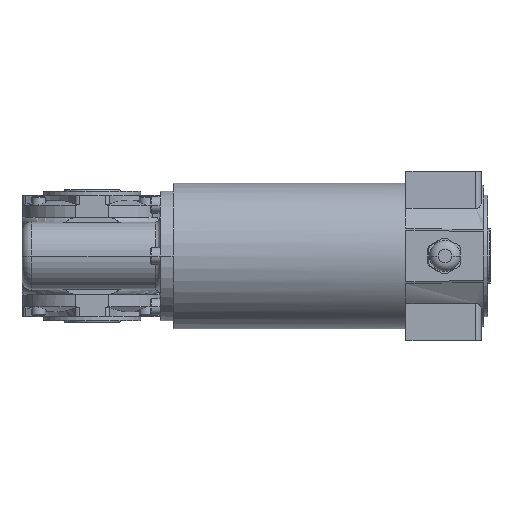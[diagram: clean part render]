
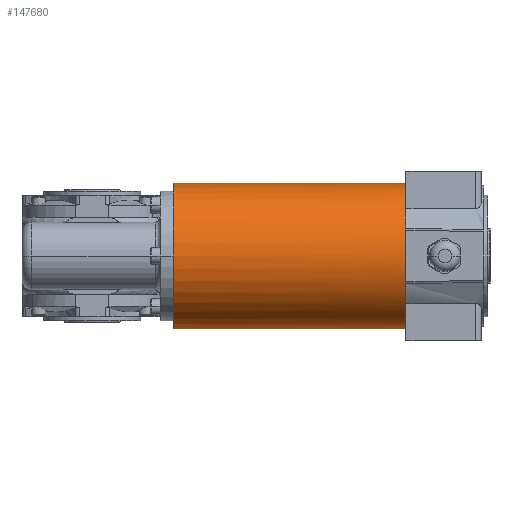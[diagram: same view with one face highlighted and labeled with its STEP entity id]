
A CAD part, front view. The second image highlights one B-rep face of the part: STEP entity #147680.
In plain terms, the highlighted cylindrical face has radius 45 mm (diameter 90 mm), a partial arc.
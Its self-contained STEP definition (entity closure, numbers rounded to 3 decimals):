
#20410=CARTESIAN_POINT('',(-64.,458.874,
-134.584));
#20420=DIRECTION('',(0.,1.,
-0.026));
#20430=DIRECTION('',(1.,0.,0.));
#20440=AXIS2_PLACEMENT_3D('',#20410,#20420,#20430);
#20450=CIRCLE('',#20440,45.);
#20460=CARTESIAN_POINT('',(-19.,458.874,
-134.584));
#20470=VERTEX_POINT('',#20460);
#20480=CARTESIAN_POINT('',(-109.,458.874,
-134.584));
#20490=VERTEX_POINT('',#20480);
#20500=EDGE_CURVE('',#20470,#20490,#20450,.T.);
#22880=CARTESIAN_POINT('',(-64.,458.874,
-134.584));
#22890=DIRECTION('',(0.,1.,
-0.026));
#22900=DIRECTION('',(1.,0.,0.));
#22910=AXIS2_PLACEMENT_3D('',#22880,#22890,#22900);
#22920=CYLINDRICAL_SURFACE('',#22910,45.);
#22930=CARTESIAN_POINT('',(-109.,458.874,
-134.584));
#22940=DIRECTION('',(0.,1.,
-0.026));
#22950=VECTOR('',#22940,1.);
#22960=LINE('',#22930,#22950);
#22970=CARTESIAN_POINT('',(-109.,602.825,
-138.354));
#22980=VERTEX_POINT('',#22970);
#22990=EDGE_CURVE('',#20490,#22980,#22960,.T.);
#23010=CARTESIAN_POINT('',(-64.,602.825,
-138.354));
#23020=DIRECTION('',(0.,1.,
-0.026));
#23030=DIRECTION('',(1.,0.,0.));
#23040=AXIS2_PLACEMENT_3D('',#23010,#23020,#23030);
#23050=CIRCLE('',#23040,45.);
#23060=CARTESIAN_POINT('',(-19.,602.825,
-138.354));
#23070=VERTEX_POINT('',#23060);
#23100=CARTESIAN_POINT('',(-19.,458.874,
-134.584));
#23110=DIRECTION('',(0.,1.,
-0.026));
#23120=VECTOR('',#23110,1.);
#23130=LINE('',#23100,#23120);
#23140=EDGE_CURVE('',#20470,#23070,#23130,.T.);
#23250=EDGE_CURVE('',#23070,#22980,#23050,.T.);
#147620=ORIENTED_EDGE('',*,*,#23250,.F.);
#147630=ORIENTED_EDGE('',*,*,#22990,.T.);
#147640=ORIENTED_EDGE('',*,*,#20500,.T.);
#147650=ORIENTED_EDGE('',*,*,#23140,.F.);
#147660=EDGE_LOOP('',(#147650,#147640,#147630,#147620));
#147670=FACE_OUTER_BOUND('',#147660,.T.);
#147680=ADVANCED_FACE('',(#147670),#22920,.T.);
